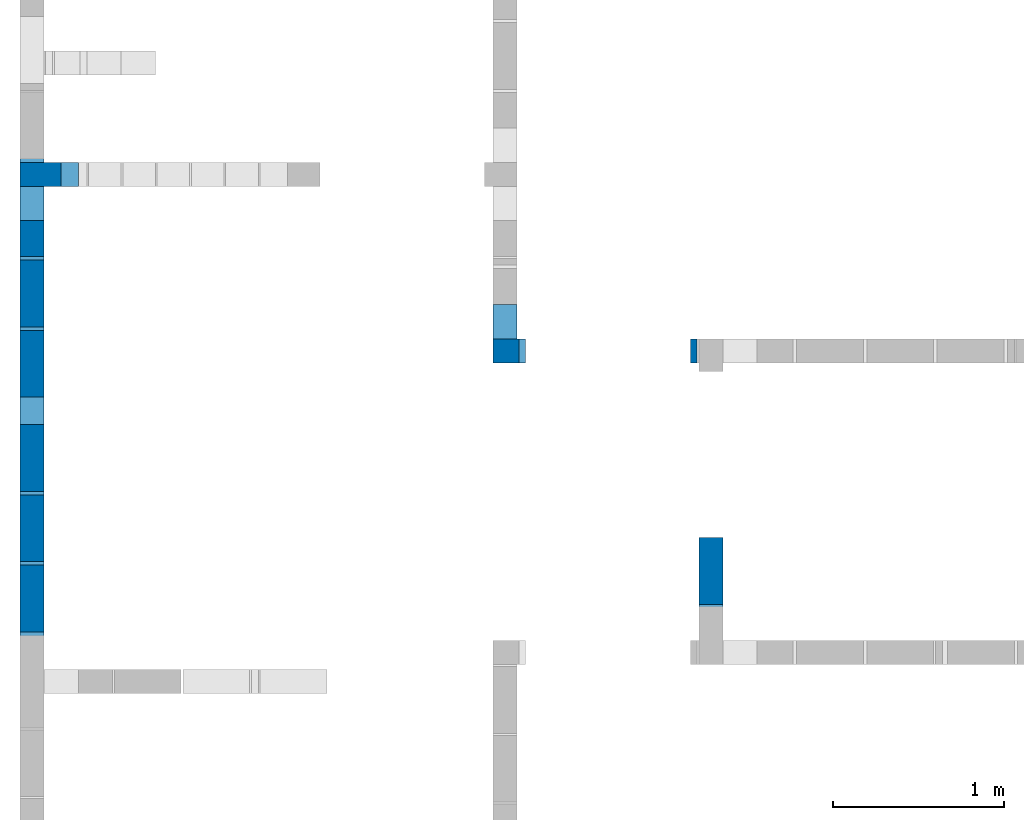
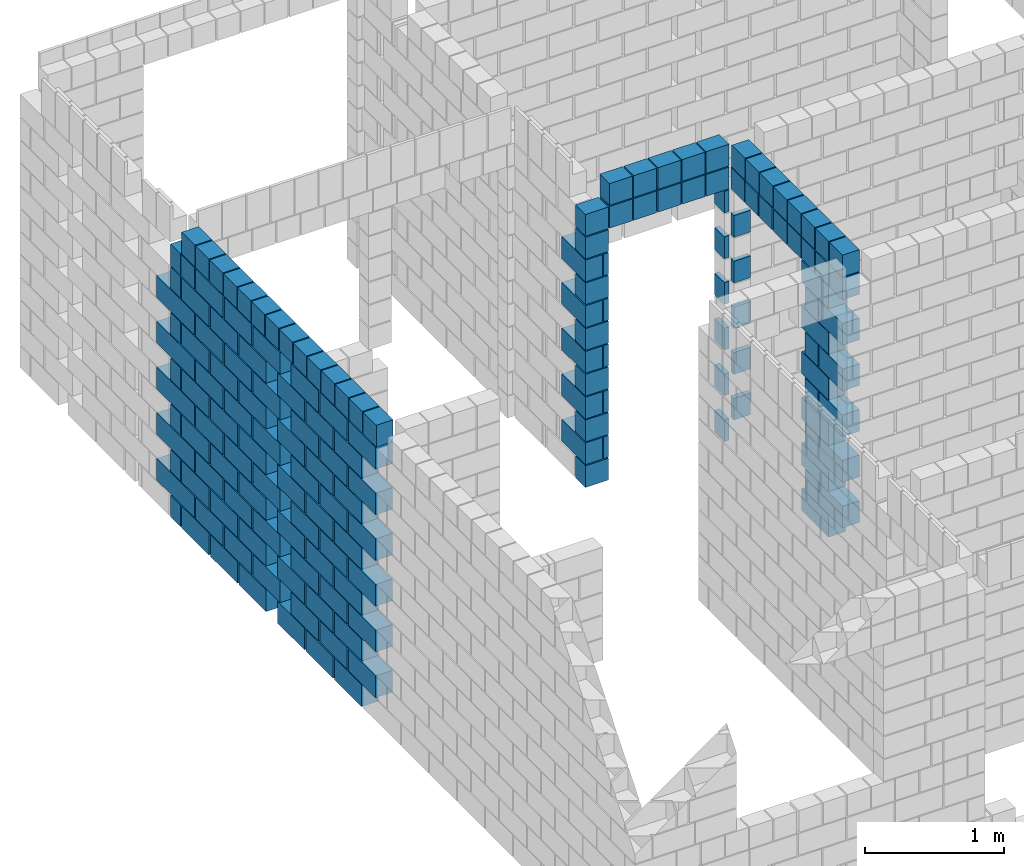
# One storey, part 7 of 12: 5 walls.
"""IFC4 building model written with IfcOpenShell, lengths in centimetres."""

from ifc_helpers import new_model, si_unit, derived_unit, frame, origin, origin_with_axes, origin_2d_with_axis, place, context, project, spatial, rectangle, extrude, element, save


model = new_model("IFC4")

# Units and contexts
model_context = context("Model", 3, precision=1e-05, world=origin_with_axes(), identifier="Body")
ifc_project = project(units=[si_unit("LENGTHUNIT", "METRE", prefix="CENTI"), si_unit("VOLUMEUNIT", "CUBIC_METRE"), si_unit("AREAUNIT", "SQUARE_METRE"), si_unit("POWERUNIT", "WATT"), si_unit("LUMINOUSFLUXUNIT", "LUMEN"), si_unit("ELECTRICCURRENTUNIT", "AMPERE"), si_unit("PRESSUREUNIT", "PASCAL", prefix="KILO"), si_unit("MASSUNIT", "GRAM", prefix="KILO"), si_unit("PLANEANGLEUNIT", "RADIAN"), derived_unit("VOLUMETRICFLOWRATEUNIT", [(si_unit("LENGTHUNIT", "METRE"), 3), (si_unit("TIMEUNIT", "SECOND"), -1)])], contexts=[model_context])

# Site, building, storey
site_placement = place(None, origin_with_axes())
site = spatial("IfcSite", under=ifc_project, at=site_placement)
building_placement = place(site_placement, origin())
building = spatial("IfcBuilding", under=site, at=building_placement)
storey_placement = place(building_placement, origin_with_axes())
storey = spatial("IfcBuildingStorey", under=building, at=storey_placement, Name="PISO", CompositionType="ELEMENT", Elevation=0.0)

# Walls
wall_1_placement = place(storey_placement, frame((286.5, 567.01, 239.0), z_axis=(0.0, 0.0, 1.0), x_axis=(1.0, 0.0, 0.0)))
element("IfcWall", 1, at=wall_1_placement, inside=storey, context=model_context, shape_type="SolidModel", body=[
    extrude(rectangle(XDim=19.0, YDim=14.0, at=origin_2d_with_axis()), frame((0.0, -10.0, -239.0), z_axis=(0.0, 0.0, 1.0), x_axis=(1.0, 0.0, 0.0)), (0.0, 0.0, 1.0), 19.0),
    extrude(rectangle(XDim=34.0, YDim=14.0, at=origin_2d_with_axis()), frame((-2.5, 0.0, -219.0), z_axis=(0.0, 0.0, 1.0), x_axis=(0.0, 1.0, 0.0)), (0.0, 0.0, 1.0), 19.0),
    extrude(rectangle(XDim=19.0, YDim=14.0, at=origin_2d_with_axis()), frame((0.0, -10.0, -199.0), z_axis=(0.0, 0.0, 1.0), x_axis=(1.0, 0.0, 0.0)), (0.0, 0.0, 1.0), 19.0),
    extrude(rectangle(XDim=34.0, YDim=14.0, at=origin_2d_with_axis()), frame((-2.5, 0.0, -179.0), z_axis=(0.0, 0.0, 1.0), x_axis=(0.0, 1.0, 0.0)), (0.0, 0.0, 1.0), 19.0),
    extrude(rectangle(XDim=19.0, YDim=14.0, at=origin_2d_with_axis()), frame((0.0, -10.0, -159.0), z_axis=(0.0, 0.0, 1.0), x_axis=(1.0, 0.0, 0.0)), (0.0, 0.0, 1.0), 19.0),
    extrude(rectangle(XDim=34.0, YDim=14.0, at=origin_2d_with_axis()), frame((-2.5, 0.0, -139.0), z_axis=(0.0, 0.0, 1.0), x_axis=(0.0, 1.0, 0.0)), (0.0, 0.0, 1.0), 19.0),
    extrude(rectangle(XDim=19.0, YDim=14.0, at=origin_2d_with_axis()), frame((0.0, -10.0, -119.0), z_axis=(0.0, 0.0, 1.0), x_axis=(1.0, 0.0, 0.0)), (0.0, 0.0, 1.0), 19.0),
    extrude(rectangle(XDim=34.0, YDim=14.0, at=origin_2d_with_axis()), frame((-2.5, 0.0, -99.0), z_axis=(0.0, 0.0, 1.0), x_axis=(0.0, 1.0, 0.0)), (0.0, 0.0, 1.0), 19.0),
    extrude(rectangle(XDim=19.0, YDim=14.0, at=origin_2d_with_axis()), frame((0.0, -10.0, -79.0), z_axis=(0.0, 0.0, 1.0), x_axis=(1.0, 0.0, 0.0)), (0.0, 0.0, 1.0), 19.0),
    extrude(rectangle(XDim=34.0, YDim=14.0, at=origin_2d_with_axis()), frame((-2.5, 0.0, -59.0), z_axis=(0.0, 0.0, 1.0), x_axis=(0.0, 1.0, 0.0)), (0.0, 0.0, 1.0), 19.0),
    extrude(rectangle(XDim=19.0, YDim=14.0, at=origin_2d_with_axis()), frame((0.0, -10.0, -39.0), z_axis=(0.0, 0.0, 1.0), x_axis=(1.0, 0.0, 0.0)), (0.0, 0.0, 1.0), 19.0),
    extrude(rectangle(XDim=19.0, YDim=14.0, at=origin_2d_with_axis()), frame((0.0, -10.0, -19.0), z_axis=(0.0, 0.0, 1.0), x_axis=(1.0, 0.0, 0.0)), (0.0, 0.0, 1.0), 19.0),
])
wall_2_placement = place(storey_placement, frame((18.0, 660.01, 239.0), z_axis=(0.0, 0.0, 1.0), x_axis=(1.0, 0.0, 0.0)))
element("IfcWall", 2, at=wall_2_placement, inside=storey, context=model_context, shape_type="SolidModel", body=[
    extrude(rectangle(XDim=34.0, YDim=14.0, at=origin_2d_with_axis()), frame((0.0, 0.0, -239.0), z_axis=(0.0, 0.0, 1.0), x_axis=(1.0, 0.0, 0.0)), (0.0, 0.0, 1.0), 19.0),
    extrude(rectangle(XDim=54.0, YDim=14.0, at=origin_2d_with_axis()), frame((-10.0, 0.0, -219.0), z_axis=(0.0, 0.0, 1.0), x_axis=(0.0, 1.0, 0.0)), (0.0, 0.0, 1.0), 19.0),
    extrude(rectangle(XDim=34.0, YDim=14.0, at=origin_2d_with_axis()), frame((0.0, 0.0, -199.0), z_axis=(0.0, 0.0, 1.0), x_axis=(1.0, 0.0, 0.0)), (0.0, 0.0, 1.0), 19.0),
    extrude(rectangle(XDim=54.0, YDim=14.0, at=origin_2d_with_axis()), frame((-10.0, 0.0, -179.0), z_axis=(0.0, 0.0, 1.0), x_axis=(0.0, 1.0, 0.0)), (0.0, 0.0, 1.0), 19.0),
    extrude(rectangle(XDim=19.0, YDim=14.0, at=origin_2d_with_axis()), frame((-7.5, 0.0, -159.0), z_axis=(0.0, 0.0, 1.0), x_axis=(1.0, 0.0, 0.0)), (0.0, 0.0, 1.0), 19.0),
    extrude(rectangle(XDim=54.0, YDim=14.0, at=origin_2d_with_axis()), frame((-10.0, 0.0, -139.0), z_axis=(0.0, 0.0, 1.0), x_axis=(0.0, 1.0, 0.0)), (0.0, 0.0, 1.0), 19.0),
    extrude(rectangle(XDim=24.0, YDim=14.0, at=origin_2d_with_axis()), frame((-5.0, 0.0, -119.0), z_axis=(0.0, 0.0, 1.0), x_axis=(1.0, 0.0, 0.0)), (0.0, 0.0, 1.0), 19.0),
    extrude(rectangle(XDim=54.0, YDim=14.0, at=origin_2d_with_axis()), frame((-10.0, 0.0, -99.0), z_axis=(0.0, 0.0, 1.0), x_axis=(0.0, 1.0, 0.0)), (0.0, 0.0, 1.0), 19.0),
    extrude(rectangle(XDim=24.0, YDim=14.0, at=origin_2d_with_axis()), frame((-5.0, 0.0, -79.0), z_axis=(0.0, 0.0, 1.0), x_axis=(1.0, 0.0, 0.0)), (0.0, 0.0, 1.0), 19.0),
    extrude(rectangle(XDim=54.0, YDim=14.0, at=origin_2d_with_axis()), frame((-10.0, 0.0, -59.0), z_axis=(0.0, 0.0, 1.0), x_axis=(0.0, 1.0, 0.0)), (0.0, 0.0, 1.0), 19.0),
    extrude(rectangle(XDim=24.0, YDim=14.0, at=origin_2d_with_axis()), frame((-5.0, 0.0, -39.0), z_axis=(0.0, 0.0, 1.0), x_axis=(1.0, 0.0, 0.0)), (0.0, 0.0, 1.0), 19.0),
    extrude(rectangle(XDim=19.0, YDim=14.0, at=origin_2d_with_axis()), frame((-7.5, 0.0, -19.0), z_axis=(0.0, 0.0, 1.0), x_axis=(1.0, 0.0, 0.0)), (0.0, 0.0, 1.0), 19.0),
])
wall_3_placement = place(storey_placement, frame((8.0, 512.01, 259.0), z_axis=(0.0, 0.0, 1.0), x_axis=(1.0, 0.0, 0.0)))
element("IfcWall", 3, at=wall_3_placement, inside=storey, Name="PAR-PISO-11", context=model_context, shape_type="SolidModel", body=[
    extrude(rectangle(XDim=39.0, YDim=14.0, at=origin_2d_with_axis()), frame((0.0, -99.5, -259.0), z_axis=(0.0, 0.0, 1.0), x_axis=(0.0, 1.0, 0.0)), (0.0, 0.0, 1.0), 19.0),
    extrude(rectangle(XDim=39.0, YDim=14.0, at=origin_2d_with_axis()), frame((0.0, -58.5, -259.0), z_axis=(0.0, 0.0, 1.0), x_axis=(0.0, 1.0, 0.0)), (0.0, 0.0, 1.0), 19.0),
    extrude(rectangle(XDim=39.0, YDim=14.0, at=origin_2d_with_axis()), frame((0.0, -17.5, -259.0), z_axis=(0.0, 0.0, 1.0), x_axis=(0.0, 1.0, 0.0)), (0.0, 0.0, 1.0), 19.0),
    extrude(rectangle(XDim=39.0, YDim=14.0, at=origin_2d_with_axis()), frame((0.0, 37.5, -259.0), z_axis=(0.0, 0.0, 1.0), x_axis=(0.0, 1.0, 0.0)), (0.0, 0.0, 1.0), 19.0),
    extrude(rectangle(XDim=39.0, YDim=14.0, at=origin_2d_with_axis()), frame((0.0, 78.5, -259.0), z_axis=(0.0, 0.0, 1.0), x_axis=(0.0, 1.0, 0.0)), (0.0, 0.0, 1.0), 19.0),
    extrude(rectangle(XDim=39.0, YDim=14.0, at=origin_2d_with_axis()), frame((0.0, 119.5, -259.0), z_axis=(0.0, 0.0, 1.0), x_axis=(0.0, 1.0, 0.0)), (0.0, 0.0, 1.0), 19.0),
    extrude(rectangle(XDim=39.0, YDim=14.0, at=origin_2d_with_axis()), frame((0.0, -119.5, -239.0), z_axis=(0.0, 0.0, 1.0), x_axis=(0.0, 1.0, 0.0)), (0.0, 0.0, 1.0), 19.0),
    extrude(rectangle(XDim=39.0, YDim=14.0, at=origin_2d_with_axis()), frame((0.0, -78.5, -239.0), z_axis=(0.0, 0.0, 1.0), x_axis=(0.0, 1.0, 0.0)), (0.0, 0.0, 1.0), 19.0),
    extrude(rectangle(XDim=39.0, YDim=14.0, at=origin_2d_with_axis()), frame((0.0, -37.5, -239.0), z_axis=(0.0, 0.0, 1.0), x_axis=(0.0, 1.0, 0.0)), (0.0, 0.0, 1.0), 19.0),
    extrude(rectangle(XDim=39.0, YDim=14.0, at=origin_2d_with_axis()), frame((0.0, 17.5, -239.0), z_axis=(0.0, 0.0, 1.0), x_axis=(0.0, 1.0, 0.0)), (0.0, 0.0, 1.0), 19.0),
    extrude(rectangle(XDim=39.0, YDim=14.0, at=origin_2d_with_axis()), frame((0.0, 58.5, -239.0), z_axis=(0.0, 0.0, 1.0), x_axis=(0.0, 1.0, 0.0)), (0.0, 0.0, 1.0), 19.0),
    extrude(rectangle(XDim=39.0, YDim=14.0, at=origin_2d_with_axis()), frame((0.0, 99.5, -239.0), z_axis=(0.0, 0.0, 1.0), x_axis=(0.0, 1.0, 0.0)), (0.0, 0.0, 1.0), 19.0),
    extrude(rectangle(XDim=39.0, YDim=14.0, at=origin_2d_with_axis()), frame((0.0, -99.5, -219.0), z_axis=(0.0, 0.0, 1.0), x_axis=(0.0, 1.0, 0.0)), (0.0, 0.0, 1.0), 19.0),
    extrude(rectangle(XDim=39.0, YDim=14.0, at=origin_2d_with_axis()), frame((0.0, -58.5, -219.0), z_axis=(0.0, 0.0, 1.0), x_axis=(0.0, 1.0, 0.0)), (0.0, 0.0, 1.0), 19.0),
    extrude(rectangle(XDim=39.0, YDim=14.0, at=origin_2d_with_axis()), frame((0.0, -17.5, -219.0), z_axis=(0.0, 0.0, 1.0), x_axis=(0.0, 1.0, 0.0)), (0.0, 0.0, 1.0), 19.0),
    extrude(rectangle(XDim=39.0, YDim=14.0, at=origin_2d_with_axis()), frame((0.0, 37.5, -219.0), z_axis=(0.0, 0.0, 1.0), x_axis=(0.0, 1.0, 0.0)), (0.0, 0.0, 1.0), 19.0),
    extrude(rectangle(XDim=39.0, YDim=14.0, at=origin_2d_with_axis()), frame((0.0, 78.5, -219.0), z_axis=(0.0, 0.0, 1.0), x_axis=(0.0, 1.0, 0.0)), (0.0, 0.0, 1.0), 19.0),
    extrude(rectangle(XDim=39.0, YDim=14.0, at=origin_2d_with_axis()), frame((0.0, 119.5, -219.0), z_axis=(0.0, 0.0, 1.0), x_axis=(0.0, 1.0, 0.0)), (0.0, 0.0, 1.0), 19.0),
    extrude(rectangle(XDim=39.0, YDim=14.0, at=origin_2d_with_axis()), frame((0.0, -119.5, -199.0), z_axis=(0.0, 0.0, 1.0), x_axis=(0.0, 1.0, 0.0)), (0.0, 0.0, 1.0), 19.0),
    extrude(rectangle(XDim=39.0, YDim=14.0, at=origin_2d_with_axis()), frame((0.0, -78.5, -199.0), z_axis=(0.0, 0.0, 1.0), x_axis=(0.0, 1.0, 0.0)), (0.0, 0.0, 1.0), 19.0),
    extrude(rectangle(XDim=39.0, YDim=14.0, at=origin_2d_with_axis()), frame((0.0, -37.5, -199.0), z_axis=(0.0, 0.0, 1.0), x_axis=(0.0, 1.0, 0.0)), (0.0, 0.0, 1.0), 19.0),
    extrude(rectangle(XDim=39.0, YDim=14.0, at=origin_2d_with_axis()), frame((0.0, 17.5, -199.0), z_axis=(0.0, 0.0, 1.0), x_axis=(0.0, 1.0, 0.0)), (0.0, 0.0, 1.0), 19.0),
    extrude(rectangle(XDim=39.0, YDim=14.0, at=origin_2d_with_axis()), frame((0.0, 58.5, -199.0), z_axis=(0.0, 0.0, 1.0), x_axis=(0.0, 1.0, 0.0)), (0.0, 0.0, 1.0), 19.0),
    extrude(rectangle(XDim=39.0, YDim=14.0, at=origin_2d_with_axis()), frame((0.0, 99.5, -199.0), z_axis=(0.0, 0.0, 1.0), x_axis=(0.0, 1.0, 0.0)), (0.0, 0.0, 1.0), 19.0),
    extrude(rectangle(XDim=39.0, YDim=14.0, at=origin_2d_with_axis()), frame((0.0, -99.5, -179.0), z_axis=(0.0, 0.0, 1.0), x_axis=(0.0, 1.0, 0.0)), (0.0, 0.0, 1.0), 19.0),
    extrude(rectangle(XDim=39.0, YDim=14.0, at=origin_2d_with_axis()), frame((0.0, -58.5, -179.0), z_axis=(0.0, 0.0, 1.0), x_axis=(0.0, 1.0, 0.0)), (0.0, 0.0, 1.0), 19.0),
    extrude(rectangle(XDim=39.0, YDim=14.0, at=origin_2d_with_axis()), frame((0.0, -17.5, -179.0), z_axis=(0.0, 0.0, 1.0), x_axis=(0.0, 1.0, 0.0)), (0.0, 0.0, 1.0), 19.0),
    extrude(rectangle(XDim=39.0, YDim=14.0, at=origin_2d_with_axis()), frame((0.0, 37.5, -179.0), z_axis=(0.0, 0.0, 1.0), x_axis=(0.0, 1.0, 0.0)), (0.0, 0.0, 1.0), 19.0),
    extrude(rectangle(XDim=39.0, YDim=14.0, at=origin_2d_with_axis()), frame((0.0, 78.5, -179.0), z_axis=(0.0, 0.0, 1.0), x_axis=(0.0, 1.0, 0.0)), (0.0, 0.0, 1.0), 19.0),
    extrude(rectangle(XDim=39.0, YDim=14.0, at=origin_2d_with_axis()), frame((0.0, 119.5, -179.0), z_axis=(0.0, 0.0, 1.0), x_axis=(0.0, 1.0, 0.0)), (0.0, 0.0, 1.0), 19.0),
    extrude(rectangle(XDim=39.0, YDim=14.0, at=origin_2d_with_axis()), frame((0.0, -119.5, -159.0), z_axis=(0.0, 0.0, 1.0), x_axis=(0.0, 1.0, 0.0)), (0.0, 0.0, 1.0), 19.0),
    extrude(rectangle(XDim=39.0, YDim=14.0, at=origin_2d_with_axis()), frame((0.0, -78.5, -159.0), z_axis=(0.0, 0.0, 1.0), x_axis=(0.0, 1.0, 0.0)), (0.0, 0.0, 1.0), 19.0),
    extrude(rectangle(XDim=39.0, YDim=14.0, at=origin_2d_with_axis()), frame((0.0, -37.5, -159.0), z_axis=(0.0, 0.0, 1.0), x_axis=(0.0, 1.0, 0.0)), (0.0, 0.0, 1.0), 19.0),
    extrude(rectangle(XDim=39.0, YDim=14.0, at=origin_2d_with_axis()), frame((0.0, 17.5, -159.0), z_axis=(0.0, 0.0, 1.0), x_axis=(0.0, 1.0, 0.0)), (0.0, 0.0, 1.0), 19.0),
    extrude(rectangle(XDim=39.0, YDim=14.0, at=origin_2d_with_axis()), frame((0.0, 58.5, -159.0), z_axis=(0.0, 0.0, 1.0), x_axis=(0.0, 1.0, 0.0)), (0.0, 0.0, 1.0), 19.0),
    extrude(rectangle(XDim=39.0, YDim=14.0, at=origin_2d_with_axis()), frame((0.0, 99.5, -159.0), z_axis=(0.0, 0.0, 1.0), x_axis=(0.0, 1.0, 0.0)), (0.0, 0.0, 1.0), 19.0),
    extrude(rectangle(XDim=39.0, YDim=14.0, at=origin_2d_with_axis()), frame((0.0, -99.5, -139.0), z_axis=(0.0, 0.0, 1.0), x_axis=(0.0, 1.0, 0.0)), (0.0, 0.0, 1.0), 19.0),
    extrude(rectangle(XDim=39.0, YDim=14.0, at=origin_2d_with_axis()), frame((0.0, -58.5, -139.0), z_axis=(0.0, 0.0, 1.0), x_axis=(0.0, 1.0, 0.0)), (0.0, 0.0, 1.0), 19.0),
    extrude(rectangle(XDim=39.0, YDim=14.0, at=origin_2d_with_axis()), frame((0.0, -17.5, -139.0), z_axis=(0.0, 0.0, 1.0), x_axis=(0.0, 1.0, 0.0)), (0.0, 0.0, 1.0), 19.0),
    extrude(rectangle(XDim=39.0, YDim=14.0, at=origin_2d_with_axis()), frame((0.0, 37.5, -139.0), z_axis=(0.0, 0.0, 1.0), x_axis=(0.0, 1.0, 0.0)), (0.0, 0.0, 1.0), 19.0),
    extrude(rectangle(XDim=39.0, YDim=14.0, at=origin_2d_with_axis()), frame((0.0, 78.5, -139.0), z_axis=(0.0, 0.0, 1.0), x_axis=(0.0, 1.0, 0.0)), (0.0, 0.0, 1.0), 19.0),
    extrude(rectangle(XDim=39.0, YDim=14.0, at=origin_2d_with_axis()), frame((0.0, 119.5, -139.0), z_axis=(0.0, 0.0, 1.0), x_axis=(0.0, 1.0, 0.0)), (0.0, 0.0, 1.0), 19.0),
    extrude(rectangle(XDim=39.0, YDim=14.0, at=origin_2d_with_axis()), frame((0.0, -119.5, -119.0), z_axis=(0.0, 0.0, 1.0), x_axis=(0.0, 1.0, 0.0)), (0.0, 0.0, 1.0), 19.0),
    extrude(rectangle(XDim=39.0, YDim=14.0, at=origin_2d_with_axis()), frame((0.0, -78.5, -119.0), z_axis=(0.0, 0.0, 1.0), x_axis=(0.0, 1.0, 0.0)), (0.0, 0.0, 1.0), 19.0),
    extrude(rectangle(XDim=39.0, YDim=14.0, at=origin_2d_with_axis()), frame((0.0, -37.5, -119.0), z_axis=(0.0, 0.0, 1.0), x_axis=(0.0, 1.0, 0.0)), (0.0, 0.0, 1.0), 19.0),
    extrude(rectangle(XDim=39.0, YDim=14.0, at=origin_2d_with_axis()), frame((0.0, 17.5, -119.0), z_axis=(0.0, 0.0, 1.0), x_axis=(0.0, 1.0, 0.0)), (0.0, 0.0, 1.0), 19.0),
    extrude(rectangle(XDim=39.0, YDim=14.0, at=origin_2d_with_axis()), frame((0.0, 58.5, -119.0), z_axis=(0.0, 0.0, 1.0), x_axis=(0.0, 1.0, 0.0)), (0.0, 0.0, 1.0), 19.0),
    extrude(rectangle(XDim=39.0, YDim=14.0, at=origin_2d_with_axis()), frame((0.0, 99.5, -119.0), z_axis=(0.0, 0.0, 1.0), x_axis=(0.0, 1.0, 0.0)), (0.0, 0.0, 1.0), 19.0),
    extrude(rectangle(XDim=39.0, YDim=14.0, at=origin_2d_with_axis()), frame((0.0, -99.5, -99.0), z_axis=(0.0, 0.0, 1.0), x_axis=(0.0, 1.0, 0.0)), (0.0, 0.0, 1.0), 19.0),
    extrude(rectangle(XDim=39.0, YDim=14.0, at=origin_2d_with_axis()), frame((0.0, -58.5, -99.0), z_axis=(0.0, 0.0, 1.0), x_axis=(0.0, 1.0, 0.0)), (0.0, 0.0, 1.0), 19.0),
    extrude(rectangle(XDim=39.0, YDim=14.0, at=origin_2d_with_axis()), frame((0.0, -17.5, -99.0), z_axis=(0.0, 0.0, 1.0), x_axis=(0.0, 1.0, 0.0)), (0.0, 0.0, 1.0), 19.0),
    extrude(rectangle(XDim=39.0, YDim=14.0, at=origin_2d_with_axis()), frame((0.0, 37.5, -99.0), z_axis=(0.0, 0.0, 1.0), x_axis=(0.0, 1.0, 0.0)), (0.0, 0.0, 1.0), 19.0),
    extrude(rectangle(XDim=39.0, YDim=14.0, at=origin_2d_with_axis()), frame((0.0, 78.5, -99.0), z_axis=(0.0, 0.0, 1.0), x_axis=(0.0, 1.0, 0.0)), (0.0, 0.0, 1.0), 19.0),
    extrude(rectangle(XDim=39.0, YDim=14.0, at=origin_2d_with_axis()), frame((0.0, 119.5, -99.0), z_axis=(0.0, 0.0, 1.0), x_axis=(0.0, 1.0, 0.0)), (0.0, 0.0, 1.0), 19.0),
    extrude(rectangle(XDim=39.0, YDim=14.0, at=origin_2d_with_axis()), frame((0.0, -119.5, -79.0), z_axis=(0.0, 0.0, 1.0), x_axis=(0.0, 1.0, 0.0)), (0.0, 0.0, 1.0), 19.0),
    extrude(rectangle(XDim=39.0, YDim=14.0, at=origin_2d_with_axis()), frame((0.0, -78.5, -79.0), z_axis=(0.0, 0.0, 1.0), x_axis=(0.0, 1.0, 0.0)), (0.0, 0.0, 1.0), 19.0),
    extrude(rectangle(XDim=39.0, YDim=14.0, at=origin_2d_with_axis()), frame((0.0, -37.5, -79.0), z_axis=(0.0, 0.0, 1.0), x_axis=(0.0, 1.0, 0.0)), (0.0, 0.0, 1.0), 19.0),
    extrude(rectangle(XDim=39.0, YDim=14.0, at=origin_2d_with_axis()), frame((0.0, 17.5, -79.0), z_axis=(0.0, 0.0, 1.0), x_axis=(0.0, 1.0, 0.0)), (0.0, 0.0, 1.0), 19.0),
    extrude(rectangle(XDim=39.0, YDim=14.0, at=origin_2d_with_axis()), frame((0.0, 58.5, -79.0), z_axis=(0.0, 0.0, 1.0), x_axis=(0.0, 1.0, 0.0)), (0.0, 0.0, 1.0), 19.0),
    extrude(rectangle(XDim=39.0, YDim=14.0, at=origin_2d_with_axis()), frame((0.0, 99.5, -79.0), z_axis=(0.0, 0.0, 1.0), x_axis=(0.0, 1.0, 0.0)), (0.0, 0.0, 1.0), 19.0),
    extrude(rectangle(XDim=39.0, YDim=14.0, at=origin_2d_with_axis()), frame((0.0, -99.5, -59.0), z_axis=(0.0, 0.0, 1.0), x_axis=(0.0, 1.0, 0.0)), (0.0, 0.0, 1.0), 19.0),
    extrude(rectangle(XDim=39.0, YDim=14.0, at=origin_2d_with_axis()), frame((0.0, -58.5, -59.0), z_axis=(0.0, 0.0, 1.0), x_axis=(0.0, 1.0, 0.0)), (0.0, 0.0, 1.0), 19.0),
    extrude(rectangle(XDim=39.0, YDim=14.0, at=origin_2d_with_axis()), frame((0.0, -17.5, -59.0), z_axis=(0.0, 0.0, 1.0), x_axis=(0.0, 1.0, 0.0)), (0.0, 0.0, 1.0), 19.0),
    extrude(rectangle(XDim=39.0, YDim=14.0, at=origin_2d_with_axis()), frame((0.0, 37.5, -59.0), z_axis=(0.0, 0.0, 1.0), x_axis=(0.0, 1.0, 0.0)), (0.0, 0.0, 1.0), 19.0),
    extrude(rectangle(XDim=39.0, YDim=14.0, at=origin_2d_with_axis()), frame((0.0, 78.5, -59.0), z_axis=(0.0, 0.0, 1.0), x_axis=(0.0, 1.0, 0.0)), (0.0, 0.0, 1.0), 19.0),
    extrude(rectangle(XDim=39.0, YDim=14.0, at=origin_2d_with_axis()), frame((0.0, 119.5, -59.0), z_axis=(0.0, 0.0, 1.0), x_axis=(0.0, 1.0, 0.0)), (0.0, 0.0, 1.0), 19.0),
    extrude(rectangle(XDim=39.0, YDim=14.0, at=origin_2d_with_axis()), frame((0.0, -119.5, -39.0), z_axis=(0.0, 0.0, 1.0), x_axis=(0.0, 1.0, 0.0)), (0.0, 0.0, 1.0), 19.0),
    extrude(rectangle(XDim=39.0, YDim=14.0, at=origin_2d_with_axis()), frame((0.0, -78.5, -39.0), z_axis=(0.0, 0.0, 1.0), x_axis=(0.0, 1.0, 0.0)), (0.0, 0.0, 1.0), 19.0),
    extrude(rectangle(XDim=39.0, YDim=14.0, at=origin_2d_with_axis()), frame((0.0, -37.5, -39.0), z_axis=(0.0, 0.0, 1.0), x_axis=(0.0, 1.0, 0.0)), (0.0, 0.0, 1.0), 19.0),
    extrude(rectangle(XDim=39.0, YDim=14.0, at=origin_2d_with_axis()), frame((0.0, 17.5, -39.0), z_axis=(0.0, 0.0, 1.0), x_axis=(0.0, 1.0, 0.0)), (0.0, 0.0, 1.0), 19.0),
    extrude(rectangle(XDim=39.0, YDim=14.0, at=origin_2d_with_axis()), frame((0.0, 58.5, -39.0), z_axis=(0.0, 0.0, 1.0), x_axis=(0.0, 1.0, 0.0)), (0.0, 0.0, 1.0), 19.0),
    extrude(rectangle(XDim=39.0, YDim=14.0, at=origin_2d_with_axis()), frame((0.0, 99.5, -39.0), z_axis=(0.0, 0.0, 1.0), x_axis=(0.0, 1.0, 0.0)), (0.0, 0.0, 1.0), 19.0),
    extrude(rectangle(XDim=19.0, YDim=14.0, at=origin_2d_with_axis()), frame((0.0, 130.5, -39.0), z_axis=(0.0, 0.0, 1.0), x_axis=(0.0, 1.0, 0.0)), (0.0, 0.0, 1.0), 19.0),
    extrude(rectangle(XDim=19.0, YDim=14.0, at=origin_2d_with_axis()), frame((0.0, -130.5, -19.0), z_axis=(0.0, 0.0, 1.0), x_axis=(0.0, 1.0, 0.0)), (0.0, 0.0, 1.0), 19.0),
    extrude(rectangle(XDim=19.0, YDim=14.0, at=origin_2d_with_axis()), frame((0.0, -110.5, -19.0), z_axis=(0.0, 0.0, 1.0), x_axis=(0.0, 1.0, 0.0)), (0.0, 0.0, 1.0), 19.0),
    extrude(rectangle(XDim=19.0, YDim=14.0, at=origin_2d_with_axis()), frame((0.0, -90.5, -19.0), z_axis=(0.0, 0.0, 1.0), x_axis=(0.0, 1.0, 0.0)), (0.0, 0.0, 1.0), 19.0),
    extrude(rectangle(XDim=19.0, YDim=14.0, at=origin_2d_with_axis()), frame((0.0, -70.5, -19.0), z_axis=(0.0, 0.0, 1.0), x_axis=(0.0, 1.0, 0.0)), (0.0, 0.0, 1.0), 19.0),
    extrude(rectangle(XDim=19.0, YDim=14.0, at=origin_2d_with_axis()), frame((0.0, -50.5, -19.0), z_axis=(0.0, 0.0, 1.0), x_axis=(0.0, 1.0, 0.0)), (0.0, 0.0, 1.0), 19.0),
    extrude(rectangle(XDim=19.0, YDim=14.0, at=origin_2d_with_axis()), frame((0.0, -30.5, -19.0), z_axis=(0.0, 0.0, 1.0), x_axis=(0.0, 1.0, 0.0)), (0.0, 0.0, 1.0), 19.0),
    extrude(rectangle(XDim=19.0, YDim=14.0, at=origin_2d_with_axis()), frame((0.0, -10.5, -19.0), z_axis=(0.0, 0.0, 1.0), x_axis=(0.0, 1.0, 0.0)), (0.0, 0.0, 1.0), 19.0),
    extrude(rectangle(XDim=19.0, YDim=14.0, at=origin_2d_with_axis()), frame((0.0, 9.5, -19.0), z_axis=(0.0, 0.0, 1.0), x_axis=(0.0, 1.0, 0.0)), (0.0, 0.0, 1.0), 19.0),
    extrude(rectangle(XDim=19.0, YDim=14.0, at=origin_2d_with_axis()), frame((0.0, 29.5, -19.0), z_axis=(0.0, 0.0, 1.0), x_axis=(0.0, 1.0, 0.0)), (0.0, 0.0, 1.0), 19.0),
    extrude(rectangle(XDim=19.0, YDim=14.0, at=origin_2d_with_axis()), frame((0.0, 49.5, -19.0), z_axis=(0.0, 0.0, 1.0), x_axis=(0.0, 1.0, 0.0)), (0.0, 0.0, 1.0), 19.0),
    extrude(rectangle(XDim=19.0, YDim=14.0, at=origin_2d_with_axis()), frame((0.0, 69.5, -19.0), z_axis=(0.0, 0.0, 1.0), x_axis=(0.0, 1.0, 0.0)), (0.0, 0.0, 1.0), 19.0),
    extrude(rectangle(XDim=19.0, YDim=14.0, at=origin_2d_with_axis()), frame((0.0, 89.5, -19.0), z_axis=(0.0, 0.0, 1.0), x_axis=(0.0, 1.0, 0.0)), (0.0, 0.0, 1.0), 19.0),
    extrude(rectangle(XDim=19.0, YDim=14.0, at=origin_2d_with_axis()), frame((0.0, 109.5, -19.0), z_axis=(0.0, 0.0, 1.0), x_axis=(0.0, 1.0, 0.0)), (0.0, 0.0, 1.0), 19.0),
    extrude(rectangle(XDim=19.0, YDim=14.0, at=origin_2d_with_axis()), frame((0.0, 129.5, -19.0), z_axis=(0.0, 0.0, 1.0), x_axis=(0.0, 1.0, 0.0)), (0.0, 0.0, 1.0), 19.0),
])
wall_4_placement = place(storey_placement, frame((404.01, 469.01, 259.0), z_axis=(0.0, 0.0, 1.0), x_axis=(1.0, 0.0, 0.0)))
element("IfcWall", 4, at=wall_4_placement, inside=storey, Name="PAR-PISO-14", context=model_context, shape_type="SolidModel", body=[
    extrude(rectangle(XDim=39.0, YDim=14.0, at=origin_2d_with_axis()), frame((0.0, -40.5, -259.0), z_axis=(0.0, 0.0, 1.0), x_axis=(0.0, 1.0, 0.0)), (0.0, 0.0, 1.0), 19.0),
    extrude(rectangle(XDim=4.0, YDim=14.0, at=origin_2d_with_axis()), frame((0.0, 78.0, -239.0), z_axis=(0.0, 0.0, 1.0), x_axis=(0.0, 1.0, 0.0)), (0.0, 0.0, 1.0), 19.0),
    extrude(rectangle(XDim=34.0, YDim=14.0, at=origin_2d_with_axis()), frame((0.0, -62.8, -239.0), z_axis=(0.0, 0.0, 1.0), x_axis=(0.0, 1.0, 0.0)), (0.0, 0.0, 1.0), 19.0),
    extrude(rectangle(XDim=19.0, YDim=14.0, at=origin_2d_with_axis()), frame((0.0, -35.3, -239.0), z_axis=(0.0, 0.0, 1.0), x_axis=(0.0, 1.0, 0.0)), (0.0, 0.0, 1.0), 19.0),
    extrude(rectangle(XDim=39.0, YDim=14.0, at=origin_2d_with_axis()), frame((0.0, -40.5, -219.0), z_axis=(0.0, 0.0, 1.0), x_axis=(0.0, 1.0, 0.0)), (0.0, 0.0, 1.0), 19.0),
    extrude(rectangle(XDim=4.0, YDim=14.0, at=origin_2d_with_axis()), frame((0.0, 78.0, -199.0), z_axis=(0.0, 0.0, 1.0), x_axis=(0.0, 1.0, 0.0)), (0.0, 0.0, 1.0), 19.0),
    extrude(rectangle(XDim=34.0, YDim=14.0, at=origin_2d_with_axis()), frame((0.0, -62.8, -199.0), z_axis=(0.0, 0.0, 1.0), x_axis=(0.0, 1.0, 0.0)), (0.0, 0.0, 1.0), 19.0),
    extrude(rectangle(XDim=19.0, YDim=14.0, at=origin_2d_with_axis()), frame((0.0, -35.3, -199.0), z_axis=(0.0, 0.0, 1.0), x_axis=(0.0, 1.0, 0.0)), (0.0, 0.0, 1.0), 19.0),
    extrude(rectangle(XDim=39.0, YDim=14.0, at=origin_2d_with_axis()), frame((0.0, -40.5, -179.0), z_axis=(0.0, 0.0, 1.0), x_axis=(0.0, 1.0, 0.0)), (0.0, 0.0, 1.0), 19.0),
    extrude(rectangle(XDim=4.0, YDim=14.0, at=origin_2d_with_axis()), frame((0.0, 78.0, -159.0), z_axis=(0.0, 0.0, 1.0), x_axis=(0.0, 1.0, 0.0)), (0.0, 0.0, 1.0), 19.0),
    extrude(rectangle(XDim=34.0, YDim=14.0, at=origin_2d_with_axis()), frame((0.0, -62.8, -159.0), z_axis=(0.0, 0.0, 1.0), x_axis=(0.0, 1.0, 0.0)), (0.0, 0.0, 1.0), 19.0),
    extrude(rectangle(XDim=19.0, YDim=14.0, at=origin_2d_with_axis()), frame((0.0, -35.3, -159.0), z_axis=(0.0, 0.0, 1.0), x_axis=(0.0, 1.0, 0.0)), (0.0, 0.0, 1.0), 19.0),
    extrude(rectangle(XDim=39.0, YDim=14.0, at=origin_2d_with_axis()), frame((0.0, -40.5, -139.0), z_axis=(0.0, 0.0, 1.0), x_axis=(0.0, 1.0, 0.0)), (0.0, 0.0, 1.0), 19.0),
    extrude(rectangle(XDim=4.0, YDim=14.0, at=origin_2d_with_axis()), frame((0.0, 78.0, -119.0), z_axis=(0.0, 0.0, 1.0), x_axis=(0.0, 1.0, 0.0)), (0.0, 0.0, 1.0), 19.0),
    extrude(rectangle(XDim=34.0, YDim=14.0, at=origin_2d_with_axis()), frame((0.0, -62.8, -119.0), z_axis=(0.0, 0.0, 1.0), x_axis=(0.0, 1.0, 0.0)), (0.0, 0.0, 1.0), 19.0),
    extrude(rectangle(XDim=19.0, YDim=14.0, at=origin_2d_with_axis()), frame((0.0, -35.3, -119.0), z_axis=(0.0, 0.0, 1.0), x_axis=(0.0, 1.0, 0.0)), (0.0, 0.0, 1.0), 19.0),
    extrude(rectangle(XDim=39.0, YDim=14.0, at=origin_2d_with_axis()), frame((0.0, -40.5, -99.0), z_axis=(0.0, 0.0, 1.0), x_axis=(0.0, 1.0, 0.0)), (0.0, 0.0, 1.0), 19.0),
    extrude(rectangle(XDim=4.0, YDim=14.0, at=origin_2d_with_axis()), frame((0.0, 78.0, -79.0), z_axis=(0.0, 0.0, 1.0), x_axis=(0.0, 1.0, 0.0)), (0.0, 0.0, 1.0), 19.0),
    extrude(rectangle(XDim=34.0, YDim=14.0, at=origin_2d_with_axis()), frame((0.0, -62.8, -79.0), z_axis=(0.0, 0.0, 1.0), x_axis=(0.0, 1.0, 0.0)), (0.0, 0.0, 1.0), 19.0),
    extrude(rectangle(XDim=19.0, YDim=14.0, at=origin_2d_with_axis()), frame((0.0, -35.3, -79.0), z_axis=(0.0, 0.0, 1.0), x_axis=(0.0, 1.0, 0.0)), (0.0, 0.0, 1.0), 19.0),
    extrude(rectangle(XDim=39.0, YDim=14.0, at=origin_2d_with_axis()), frame((0.0, -40.5, -59.0), z_axis=(0.0, 0.0, 1.0), x_axis=(0.0, 1.0, 0.0)), (0.0, 0.0, 1.0), 19.0),
    extrude(rectangle(XDim=19.0, YDim=14.0, at=origin_2d_with_axis()), frame((0.0, -70.5, -39.0), z_axis=(0.0, 0.0, 1.0), x_axis=(0.0, 1.0, 0.0)), (0.0, 0.0, 1.0), 19.0),
    extrude(rectangle(XDim=19.0, YDim=14.0, at=origin_2d_with_axis()), frame((0.0, -50.5, -39.0), z_axis=(0.0, 0.0, 1.0), x_axis=(0.0, 1.0, 0.0)), (0.0, 0.0, 1.0), 19.0),
    extrude(rectangle(XDim=19.0, YDim=14.0, at=origin_2d_with_axis()), frame((0.0, -30.5, -39.0), z_axis=(0.0, 0.0, 1.0), x_axis=(0.0, 1.0, 0.0)), (0.0, 0.0, 1.0), 19.0),
    extrude(rectangle(XDim=19.0, YDim=14.0, at=origin_2d_with_axis()), frame((0.0, -10.5, -39.0), z_axis=(0.0, 0.0, 1.0), x_axis=(0.0, 1.0, 0.0)), (0.0, 0.0, 1.0), 19.0),
    extrude(rectangle(XDim=19.0, YDim=14.0, at=origin_2d_with_axis()), frame((0.0, 9.5, -39.0), z_axis=(0.0, 0.0, 1.0), x_axis=(0.0, 1.0, 0.0)), (0.0, 0.0, 1.0), 19.0),
    extrude(rectangle(XDim=19.0, YDim=14.0, at=origin_2d_with_axis()), frame((0.0, 30.5, -39.0), z_axis=(0.0, 0.0, 1.0), x_axis=(0.0, 1.0, 0.0)), (0.0, 0.0, 1.0), 19.0),
    extrude(rectangle(XDim=19.0, YDim=14.0, at=origin_2d_with_axis()), frame((0.0, 50.5, -39.0), z_axis=(0.0, 0.0, 1.0), x_axis=(0.0, 1.0, 0.0)), (0.0, 0.0, 1.0), 19.0),
    extrude(rectangle(XDim=19.0, YDim=14.0, at=origin_2d_with_axis()), frame((0.0, 70.5, -39.0), z_axis=(0.0, 0.0, 1.0), x_axis=(0.0, 1.0, 0.0)), (0.0, 0.0, 1.0), 19.0),
    extrude(rectangle(XDim=19.0, YDim=14.0, at=origin_2d_with_axis()), frame((0.0, -70.5, -19.0), z_axis=(0.0, 0.0, 1.0), x_axis=(0.0, 1.0, 0.0)), (0.0, 0.0, 1.0), 19.0),
    extrude(rectangle(XDim=19.0, YDim=14.0, at=origin_2d_with_axis()), frame((0.0, -50.5, -19.0), z_axis=(0.0, 0.0, 1.0), x_axis=(0.0, 1.0, 0.0)), (0.0, 0.0, 1.0), 19.0),
    extrude(rectangle(XDim=19.0, YDim=14.0, at=origin_2d_with_axis()), frame((0.0, -30.5, -19.0), z_axis=(0.0, 0.0, 1.0), x_axis=(0.0, 1.0, 0.0)), (0.0, 0.0, 1.0), 19.0),
    extrude(rectangle(XDim=19.0, YDim=14.0, at=origin_2d_with_axis()), frame((0.0, -10.5, -19.0), z_axis=(0.0, 0.0, 1.0), x_axis=(0.0, 1.0, 0.0)), (0.0, 0.0, 1.0), 19.0),
    extrude(rectangle(XDim=19.0, YDim=14.0, at=origin_2d_with_axis()), frame((0.0, 9.5, -19.0), z_axis=(0.0, 0.0, 1.0), x_axis=(0.0, 1.0, 0.0)), (0.0, 0.0, 1.0), 19.0),
    extrude(rectangle(XDim=19.0, YDim=14.0, at=origin_2d_with_axis()), frame((0.0, 29.5, -19.0), z_axis=(0.0, 0.0, 1.0), x_axis=(0.0, 1.0, 0.0)), (0.0, 0.0, 1.0), 19.0),
    extrude(rectangle(XDim=19.0, YDim=14.0, at=origin_2d_with_axis()), frame((0.0, 49.5, -19.0), z_axis=(0.0, 0.0, 1.0), x_axis=(0.0, 1.0, 0.0)), (0.0, 0.0, 1.0), 19.0),
    extrude(rectangle(XDim=19.0, YDim=14.0, at=origin_2d_with_axis()), frame((0.0, 69.5, -19.0), z_axis=(0.0, 0.0, 1.0), x_axis=(0.0, 1.0, 0.0)), (0.0, 0.0, 1.0), 19.0),
])
wall_5_placement = place(storey_placement, frame((344.005, 557.01, 259.0), z_axis=(0.0, 0.0, 1.0), x_axis=(1.0, 0.0, 0.0)))
element("IfcWall", 5, at=wall_5_placement, inside=storey, Name="PAR-PISO-5", context=model_context, shape_type="SolidModel", body=[
    extrude(rectangle(XDim=4.0, YDim=14.0, at=origin_2d_with_axis()), frame((50.005, 0.0, -259.0), z_axis=(0.0, 0.0, 1.0), x_axis=(-1.0, 0.0, 0.0)), (0.0, 0.0, 1.0), 19.0),
    extrude(rectangle(XDim=4.0, YDim=14.0, at=origin_2d_with_axis()), frame((-50.005, 0.0, -239.0), z_axis=(0.0, 0.0, 1.0), x_axis=(-1.0, 0.0, 0.0)), (0.0, 0.0, 1.0), 19.0),
    extrude(rectangle(XDim=4.0, YDim=14.0, at=origin_2d_with_axis()), frame((50.005, 0.0, -219.0), z_axis=(0.0, 0.0, 1.0), x_axis=(-1.0, 0.0, 0.0)), (0.0, 0.0, 1.0), 19.0),
    extrude(rectangle(XDim=4.0, YDim=14.0, at=origin_2d_with_axis()), frame((-50.005, 0.0, -199.0), z_axis=(0.0, 0.0, 1.0), x_axis=(-1.0, 0.0, 0.0)), (0.0, 0.0, 1.0), 19.0),
    extrude(rectangle(XDim=4.0, YDim=14.0, at=origin_2d_with_axis()), frame((50.005, 0.0, -179.0), z_axis=(0.0, 0.0, 1.0), x_axis=(-1.0, 0.0, 0.0)), (0.0, 0.0, 1.0), 19.0),
    extrude(rectangle(XDim=4.0, YDim=14.0, at=origin_2d_with_axis()), frame((-50.005, 0.0, -159.0), z_axis=(0.0, 0.0, 1.0), x_axis=(-1.0, 0.0, 0.0)), (0.0, 0.0, 1.0), 19.0),
    extrude(rectangle(XDim=4.0, YDim=14.0, at=origin_2d_with_axis()), frame((50.005, 0.0, -139.0), z_axis=(0.0, 0.0, 1.0), x_axis=(-1.0, 0.0, 0.0)), (0.0, 0.0, 1.0), 19.0),
    extrude(rectangle(XDim=4.0, YDim=14.0, at=origin_2d_with_axis()), frame((-50.005, 0.0, -119.0), z_axis=(0.0, 0.0, 1.0), x_axis=(-1.0, 0.0, 0.0)), (0.0, 0.0, 1.0), 19.0),
    extrude(rectangle(XDim=4.0, YDim=14.0, at=origin_2d_with_axis()), frame((50.005, 0.0, -99.0), z_axis=(0.0, 0.0, 1.0), x_axis=(-1.0, 0.0, 0.0)), (0.0, 0.0, 1.0), 19.0),
    extrude(rectangle(XDim=4.0, YDim=14.0, at=origin_2d_with_axis()), frame((-50.005, 0.0, -79.0), z_axis=(0.0, 0.0, 1.0), x_axis=(-1.0, 0.0, 0.0)), (0.0, 0.0, 1.0), 19.0),
    extrude(rectangle(XDim=4.0, YDim=14.0, at=origin_2d_with_axis()), frame((50.005, 0.0, -59.0), z_axis=(0.0, 0.0, 1.0), x_axis=(-1.0, 0.0, 0.0)), (0.0, 0.0, 1.0), 19.0),
    extrude(rectangle(XDim=19.0, YDim=14.0, at=origin_2d_with_axis()), frame((42.505, 0.0, -39.0), z_axis=(0.0, 0.0, 1.0), x_axis=(-1.0, 0.0, 0.0)), (0.0, 0.0, 1.0), 19.0),
    extrude(rectangle(XDim=19.0, YDim=14.0, at=origin_2d_with_axis()), frame((22.505, 0.0, -39.0), z_axis=(0.0, 0.0, 1.0), x_axis=(-1.0, 0.0, 0.0)), (0.0, 0.0, 1.0), 19.0),
    extrude(rectangle(XDim=19.0, YDim=14.0, at=origin_2d_with_axis()), frame((2.505, 0.0, -39.0), z_axis=(0.0, 0.0, 1.0), x_axis=(-1.0, 0.0, 0.0)), (0.0, 0.0, 1.0), 19.0),
    extrude(rectangle(XDim=19.0, YDim=14.0, at=origin_2d_with_axis()), frame((-17.495, 0.0, -39.0), z_axis=(0.0, 0.0, 1.0), x_axis=(-1.0, 0.0, 0.0)), (0.0, 0.0, 1.0), 19.0),
    extrude(rectangle(XDim=19.0, YDim=14.0, at=origin_2d_with_axis()), frame((-37.495, 0.0, -39.0), z_axis=(0.0, 0.0, 1.0), x_axis=(-1.0, 0.0, 0.0)), (0.0, 0.0, 1.0), 19.0),
    extrude(rectangle(XDim=19.0, YDim=14.0, at=origin_2d_with_axis()), frame((42.505, 0.0, -19.0), z_axis=(0.0, 0.0, 1.0), x_axis=(-1.0, 0.0, 0.0)), (0.0, 0.0, 1.0), 19.0),
    extrude(rectangle(XDim=19.0, YDim=14.0, at=origin_2d_with_axis()), frame((22.505, 0.0, -19.0), z_axis=(0.0, 0.0, 1.0), x_axis=(-1.0, 0.0, 0.0)), (0.0, 0.0, 1.0), 19.0),
    extrude(rectangle(XDim=19.0, YDim=14.0, at=origin_2d_with_axis()), frame((2.505, 0.0, -19.0), z_axis=(0.0, 0.0, 1.0), x_axis=(-1.0, 0.0, 0.0)), (0.0, 0.0, 1.0), 19.0),
    extrude(rectangle(XDim=19.0, YDim=14.0, at=origin_2d_with_axis()), frame((-17.495, 0.0, -19.0), z_axis=(0.0, 0.0, 1.0), x_axis=(-1.0, 0.0, 0.0)), (0.0, 0.0, 1.0), 19.0),
    extrude(rectangle(XDim=19.0, YDim=14.0, at=origin_2d_with_axis()), frame((-37.495, 0.0, -19.0), z_axis=(0.0, 0.0, 1.0), x_axis=(-1.0, 0.0, 0.0)), (0.0, 0.0, 1.0), 19.0),
])

save(model, "model.ifc")
